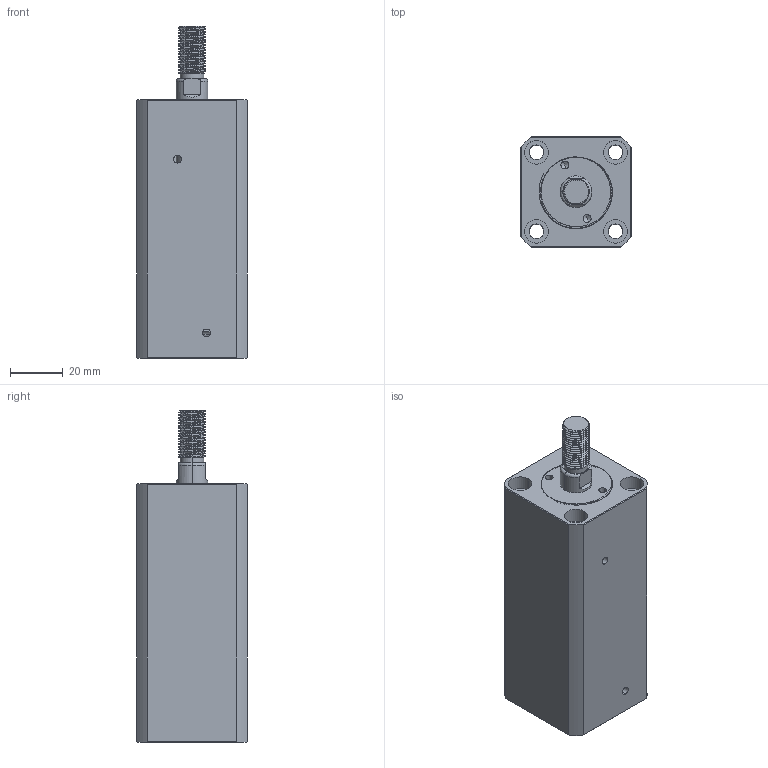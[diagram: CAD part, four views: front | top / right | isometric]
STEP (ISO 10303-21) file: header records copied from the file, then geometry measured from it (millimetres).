
FILE_DESCRIPTION (( 'STEP AP214' ), '1' );
FILE_NAME ('chtb-sdmb20x55w_asm.STEP', '2018-05-18T08:35:55', ( 'Windows' ), ( 'Microsoft' ), 'SwSTEP 2.0', 'SolidWorks 2015', '' );
FILE_SCHEMA (( 'AUTOMOTIVE_DESIGN' ));
Length unit declared in the file: millimetre
Products named in the file (4): QG_3; CHTB-SDMB20X55WHSG; CHTB-SDMB20X55NBT; chtb-sdmb20x55w_asm
Assembly tree (3 placements, depth 2):
  chtb-sdmb20x55w_asm
    CHTB-SDMB20X55NBT
    CHTB-SDMB20X55WHSG
    QG_3
Bounding box: 42 x 42 x 126 mm (x, y, z)
Volume: 147778.5 mm3; surface area: 43506.3 mm2
Topology: 3 solids, 3 shells, 243 faces, 660 edges, 439 vertices
Faces by surface type: cylinder 143, plane 47, torus 25, bspline 23, cone 5
Entity records: 14768 total; most frequent: CARTESIAN_POINT 8984, ORIENTED_EDGE 1312, DIRECTION 1058, EDGE_CURVE 656, VERTEX_POINT 439, AXIS2_PLACEMENT_3D 434, EDGE_LOOP 281, FACE_OUTER_BOUND 243
